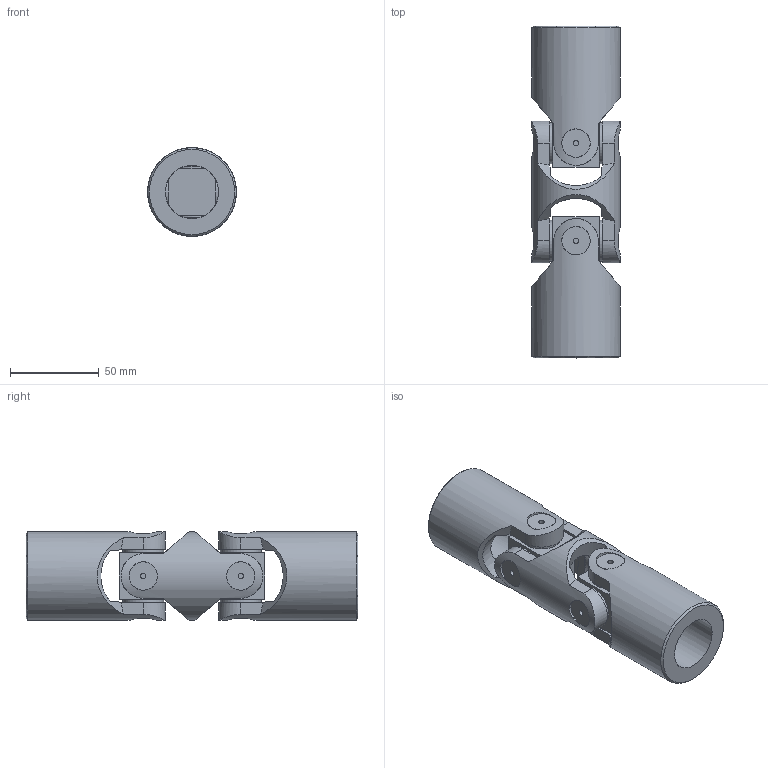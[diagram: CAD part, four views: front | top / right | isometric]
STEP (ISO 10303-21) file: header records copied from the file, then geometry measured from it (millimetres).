
FILE_DESCRIPTION(/* description */ (''),/* implementation_level */ '2;1');
FILE_NAME(/* name */ '\\SRV2016\Societa\Stefano\Disegni 3D\00Catalogo 3D\02Doppi GD-GBD\SGBD3000.stp',/* time_stamp */ '2021-11-23T15:41:23+01:00',/* author */ ('acquisti'),/* organization */ (''),/* preprocessor_version */ 'ST-DEVELOPER v15.6',/* originating_system */ 'Autodesk Inventor 2015',/* authorisation */ '');
FILE_SCHEMA (('AUTOMOTIVE_DESIGN { 1 0 10303 214 3 1 1 }'));
Length unit declared in the file: millimetre
Products named in the file (4): 5G MOD; 5G SFE; 6GB MOS; Ø50_6GBD-00_SGBD3000
Assembly tree (5 placements, depth 2):
  Ø50_6GBD-00_SGBD3000
    5G MOD
    5G SFE  x2
    6GB MOS  x2
Bounding box: 50 x 187 x 50 mm (x, y, z)
Volume: 225545.6 mm3; surface area: 58310.2 mm2
Topology: 5 solids, 5 shells, 139 faces, 335 edges, 224 vertices
Faces by surface type: plane 70, cylinder 39, cone 20, torus 10
Full cylindrical faces by diameter (mm): 3 x8, 16 x8, 23 x8, 28 x2, 30 x2, 50 x3
Entity records: 3398 total; most frequent: CARTESIAN_POINT 1275, ORIENTED_EDGE 410, DIRECTION 400, EDGE_CURVE 205, AXIS2_PLACEMENT_3D 176, VERTEX_POINT 155, EDGE_LOOP 138, FACE_OUTER_BOUND 95
